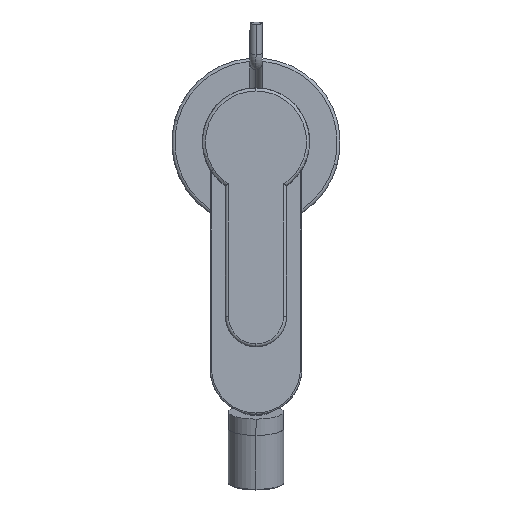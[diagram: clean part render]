
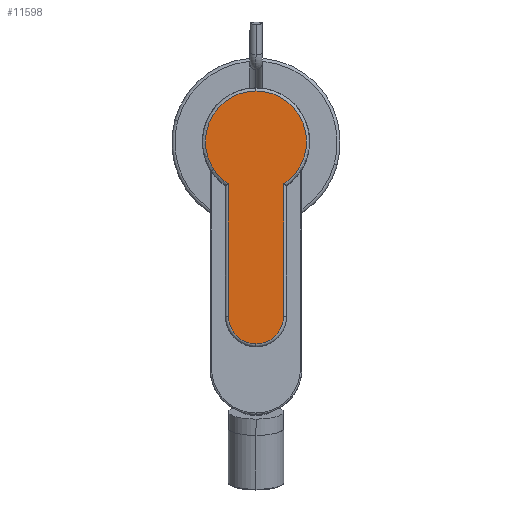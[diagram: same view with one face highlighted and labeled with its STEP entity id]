
A CAD part, top view. The second image highlights one B-rep face of the part: STEP entity #11598.
In plain terms, the highlighted planar face has unit normal (0, 0, 1) as drawn and (0, 0, -1) by its records, which use the part's own axes.
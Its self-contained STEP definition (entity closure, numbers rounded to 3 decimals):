
#1045 = CARTESIAN_POINT ( 'NONE',  ( 57., 9., -17.7 ) ) ;
#1107 = VERTEX_POINT ( 'NONE', #12033 ) ;
#1161 = DIRECTION ( 'NONE',  ( 0., 0., -1. ) ) ;
#1201 = CIRCLE ( 'NONE', #7121, 16.5 ) ;
#1911 = CARTESIAN_POINT ( 'NONE',  ( 0., 0., -17.7 ) ) ;
#1945 = EDGE_LOOP ( 'NONE', ( #3674, #5885, #22549, #6896, #19356, #12397 ) ) ;
#2424 = DIRECTION ( 'NONE',  ( -1., 0., 0. ) ) ;
#2433 = EDGE_CURVE ( 'NONE', #8709, #1107, #7245, .T. ) ;
#3174 = AXIS2_PLACEMENT_3D ( 'NONE', #1911, #17799, #12471 ) ;
#3235 = DIRECTION ( 'NONE',  ( -1., 0., 0. ) ) ;
#3242 = CIRCLE ( 'NONE', #16209, 9. ) ;
#3674 = ORIENTED_EDGE ( 'NONE', *, *, #22233, .T. ) ;
#3938 = VERTEX_POINT ( 'NONE', #5219 ) ;
#4900 = VERTEX_POINT ( 'NONE', #1045 ) ;
#4938 = DIRECTION ( 'NONE',  ( -1., 0., 0. ) ) ;
#5219 = CARTESIAN_POINT ( 'NONE',  ( 57., -9., -17.7 ) ) ;
#5885 = ORIENTED_EDGE ( 'NONE', *, *, #15570, .T. ) ;
#6098 = VECTOR ( 'NONE', #4938, 1000. ) ;
#6689 = DIRECTION ( 'NONE',  ( 1., 0., 0. ) ) ;
#6896 = ORIENTED_EDGE ( 'NONE', *, *, #2433, .T. ) ;
#7053 = DIRECTION ( 'NONE',  ( -1., 0., 0. ) ) ;
#7121 = AXIS2_PLACEMENT_3D ( 'NONE', #15306, #1161, #3235 ) ;
#7179 = AXIS2_PLACEMENT_3D ( 'NONE', #18079, #7287, #7053 ) ;
#7245 = CIRCLE ( 'NONE', #3174, 16.5 ) ;
#7287 = DIRECTION ( 'NONE',  ( 0., 0., -1. ) ) ;
#8234 = EDGE_CURVE ( 'NONE', #14722, #8709, #1201, .T. ) ;
#8709 = VERTEX_POINT ( 'NONE', #17673 ) ;
#9575 = CARTESIAN_POINT ( 'NONE',  ( 13.829, -9., -17.7 ) ) ;
#9945 = CARTESIAN_POINT ( 'NONE',  ( 0., -9., -17.7 ) ) ;
#10184 = LINE ( 'NONE', #9945, #6098 ) ;
#10314 = CARTESIAN_POINT ( 'NONE',  ( 0., 9., -17.7 ) ) ;
#11377 = CARTESIAN_POINT ( 'NONE',  ( 0., 0., -17.7 ) ) ;
#11598 = ADVANCED_FACE ( 'NONE', ( #18788 ), #20523, .T. ) ;
#12033 = CARTESIAN_POINT ( 'NONE',  ( 13.829, 9., -17.7 ) ) ;
#12397 = ORIENTED_EDGE ( 'NONE', *, *, #14356, .T. ) ;
#12471 = DIRECTION ( 'NONE',  ( -1., 0., 0. ) ) ;
#14356 = EDGE_CURVE ( 'NONE', #4900, #16630, #3242, .T. ) ;
#14473 = VECTOR ( 'NONE', #6689, 1000. ) ;
#14721 = CARTESIAN_POINT ( 'NONE',  ( 57., 0., -17.7 ) ) ;
#14722 = VERTEX_POINT ( 'NONE', #9575 ) ;
#15072 = DIRECTION ( 'NONE',  ( 0., 0., -1. ) ) ;
#15186 = DIRECTION ( 'NONE',  ( 0., 0., -1. ) ) ;
#15306 = CARTESIAN_POINT ( 'NONE',  ( 0., 0., -17.7 ) ) ;
#15570 = EDGE_CURVE ( 'NONE', #3938, #14722, #10184, .T. ) ;
#16209 = AXIS2_PLACEMENT_3D ( 'NONE', #14721, #15186, #16921 ) ;
#16630 = VERTEX_POINT ( 'NONE', #22879 ) ;
#16921 = DIRECTION ( 'NONE',  ( -1., 0., 0. ) ) ;
#17673 = CARTESIAN_POINT ( 'NONE',  ( -16.5, 0., -17.7 ) ) ;
#17799 = DIRECTION ( 'NONE',  ( 0., 0., -1. ) ) ;
#17992 = EDGE_CURVE ( 'NONE', #1107, #4900, #20619, .T. ) ;
#18079 = CARTESIAN_POINT ( 'NONE',  ( 57., 0., -17.7 ) ) ;
#18788 = FACE_OUTER_BOUND ( 'NONE', #1945, .T. ) ;
#19034 = CIRCLE ( 'NONE', #7179, 9. ) ;
#19356 = ORIENTED_EDGE ( 'NONE', *, *, #17992, .T. ) ;
#20523 = PLANE ( 'NONE',  #22107 ) ;
#20619 = LINE ( 'NONE', #10314, #14473 ) ;
#22107 = AXIS2_PLACEMENT_3D ( 'NONE', #11377, #15072, #2424 ) ;
#22233 = EDGE_CURVE ( 'NONE', #16630, #3938, #19034, .T. ) ;
#22549 = ORIENTED_EDGE ( 'NONE', *, *, #8234, .T. ) ;
#22879 = CARTESIAN_POINT ( 'NONE',  ( 66., 0., -17.7 ) ) ;
